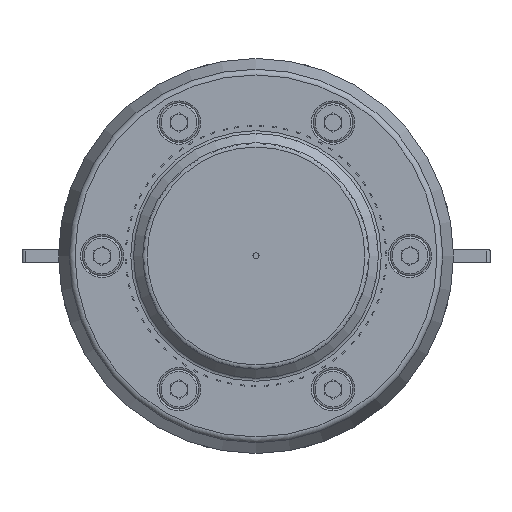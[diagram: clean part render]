
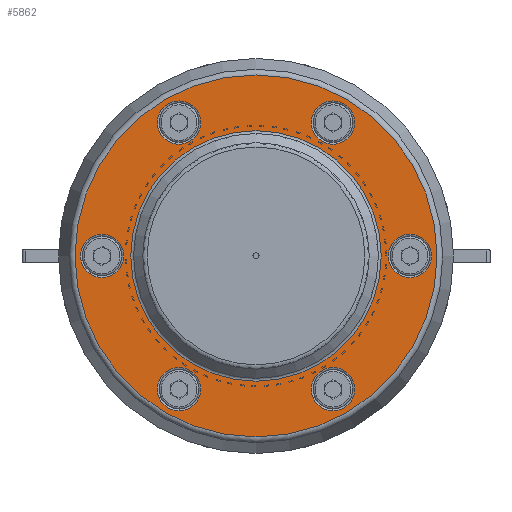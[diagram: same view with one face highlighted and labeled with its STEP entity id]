
A CAD part, top view. The second image highlights one B-rep face of the part: STEP entity #5862.
In plain terms, the highlighted planar face has unit normal (0, 0, 1).
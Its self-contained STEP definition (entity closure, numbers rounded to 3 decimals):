
#5862=ADVANCED_FACE('',(#20129,#20131,#20133,#20135,#20137,#20139,#20141,#20143),
#20145,.T.);
#20129=FACE_BOUND('',#20130,.T.);
#20130=EDGE_LOOP('',(#88560));
#20131=FACE_BOUND('',#20132,.T.);
#20132=EDGE_LOOP('',(#88561));
#20133=FACE_BOUND('',#20134,.T.);
#20134=EDGE_LOOP('',(#88562));
#20135=FACE_BOUND('',#20136,.T.);
#20136=EDGE_LOOP('',(#88563));
#20137=FACE_BOUND('',#20138,.T.);
#20138=EDGE_LOOP('',(#88564));
#20139=FACE_BOUND('',#20140,.T.);
#20140=EDGE_LOOP('',(#88565));
#20141=FACE_BOUND('',#20142,.T.);
#20142=EDGE_LOOP('',(#88566));
#20143=FACE_BOUND('',#20144,.T.);
#20144=EDGE_LOOP('',(#88567));
#20145=PLANE('',#20146);
#20146=AXIS2_PLACEMENT_3D('',#20147,#20148,#20149);
#20147=CARTESIAN_POINT('',(0.,0.,-12.));
#20148=DIRECTION('',(0.,0.,1.));
#20149=DIRECTION('',(-1.,0.,0.));
#88560=ORIENTED_EDGE('',*,*,#94699,.F.);
#88561=ORIENTED_EDGE('',*,*,#94700,.F.);
#88562=ORIENTED_EDGE('',*,*,#94701,.F.);
#88563=ORIENTED_EDGE('',*,*,#94702,.F.);
#88564=ORIENTED_EDGE('',*,*,#94703,.T.);
#88565=ORIENTED_EDGE('',*,*,#94704,.F.);
#88566=ORIENTED_EDGE('',*,*,#94705,.F.);
#88567=ORIENTED_EDGE('',*,*,#94706,.F.);
#94699=EDGE_CURVE('',#100896,#100896,#100897,.T.);
#94700=EDGE_CURVE('',#100898,#100898,#100899,.F.);
#94701=EDGE_CURVE('',#100900,#100900,#100901,.F.);
#94702=EDGE_CURVE('',#100902,#100902,#100903,.F.);
#94703=EDGE_CURVE('',#100904,#100904,#100905,.T.);
#94704=EDGE_CURVE('',#100906,#100906,#100907,.F.);
#94705=EDGE_CURVE('',#100908,#100908,#100909,.F.);
#94706=EDGE_CURVE('',#100910,#100910,#100911,.F.);
#100896=VERTEX_POINT('',#135316);
#100897=CIRCLE('',#135317,178.679);
#100898=VERTEX_POINT('',#135321);
#100899=CIRCLE('',#135322,21.4);
#100900=VERTEX_POINT('',#135326);
#100901=CIRCLE('',#135327,21.4);
#100902=VERTEX_POINT('',#135331);
#100903=CIRCLE('',#135332,21.4);
#100904=VERTEX_POINT('',#135336);
#100905=CIRCLE('',#135337,123.657);
#100906=VERTEX_POINT('',#135341);
#100907=CIRCLE('',#135342,21.4);
#100908=VERTEX_POINT('',#135346);
#100909=CIRCLE('',#135347,21.4);
#100910=VERTEX_POINT('',#135351);
#100911=CIRCLE('',#135352,21.4);
#135316=CARTESIAN_POINT('',(-178.679,0.,-12.));
#135317=AXIS2_PLACEMENT_3D('',#135318,#135319,#135320);
#135318=CARTESIAN_POINT('',(0.,0.,-12.));
#135319=DIRECTION('',(0.,0.,-1.));
#135320=DIRECTION('',(-1.,0.,0.));
#135321=CARTESIAN_POINT('',(-86.7,150.169,-12.));
#135322=AXIS2_PLACEMENT_3D('',#135323,#135324,#135325);
#135323=CARTESIAN_POINT('',(-76.,131.636,-12.));
#135324=DIRECTION('',(0.,0.,-1.));
#135325=DIRECTION('',(-0.5,0.866,0.));
#135326=CARTESIAN_POINT('',(173.4,0.,-12.));
#135327=AXIS2_PLACEMENT_3D('',#135328,#135329,#135330);
#135328=CARTESIAN_POINT('',(152.,0.,-12.));
#135329=DIRECTION('',(0.,0.,-1.));
#135330=DIRECTION('',(1.,0.,0.));
#135331=CARTESIAN_POINT('',(-86.7,-150.169,-12.));
#135332=AXIS2_PLACEMENT_3D('',#135333,#135334,#135335);
#135333=CARTESIAN_POINT('',(-76.,-131.636,-12.));
#135334=DIRECTION('',(0.,0.,-1.));
#135335=DIRECTION('',(-0.5,-0.866,0.));
#135336=CARTESIAN_POINT('',(-123.657,0.,-12.));
#135337=AXIS2_PLACEMENT_3D('',#135338,#135339,#135340);
#135338=CARTESIAN_POINT('',(0.,0.,-12.));
#135339=DIRECTION('',(0.,0.,-1.));
#135340=DIRECTION('',(-1.,0.,0.));
#135341=CARTESIAN_POINT('',(-173.4,0.,-12.));
#135342=AXIS2_PLACEMENT_3D('',#135343,#135344,#135345);
#135343=CARTESIAN_POINT('',(-152.,0.,-12.));
#135344=DIRECTION('',(0.,0.,-1.));
#135345=DIRECTION('',(-1.,0.,0.));
#135346=CARTESIAN_POINT('',(86.7,-150.169,-12.));
#135347=AXIS2_PLACEMENT_3D('',#135348,#135349,#135350);
#135348=CARTESIAN_POINT('',(76.,-131.636,-12.));
#135349=DIRECTION('',(0.,0.,-1.));
#135350=DIRECTION('',(0.5,-0.866,0.));
#135351=CARTESIAN_POINT('',(86.7,150.169,-12.));
#135352=AXIS2_PLACEMENT_3D('',#135353,#135354,#135355);
#135353=CARTESIAN_POINT('',(76.,131.636,-12.));
#135354=DIRECTION('',(0.,0.,-1.));
#135355=DIRECTION('',(0.5,0.866,0.));
